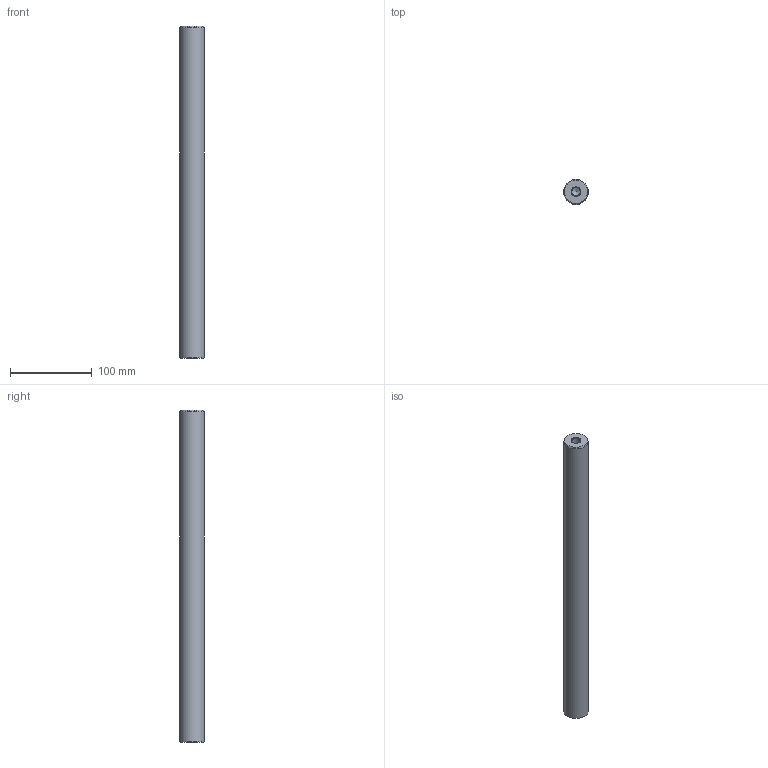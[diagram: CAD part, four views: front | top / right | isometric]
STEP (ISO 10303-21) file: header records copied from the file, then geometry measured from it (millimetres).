
FILE_DESCRIPTION( ( 'STEP AP214' ), '1' );
FILE_NAME( 'U:/Etudes/Top Solid/BIBLIO 3D AVM/STEP/G_GUIDAGE/Accessoires/Colonnes/Ø30x405.step', '2007-06-18T12:24:39', ( ' ' ), ( ' ' ), 'XStep 1.0', ' ', ' ' );
FILE_SCHEMA( ( 'automotive_design' ) );
Length unit declared in the file: metre
Products named in the file (1): 1
Bounding box: 30 x 30 x 405 mm (x, y, z)
Volume: 280945.5 mm3; surface area: 41493.8 mm2
Topology: 1 solids, 1 shells, 13 faces, 27 edges, 16 vertices
Faces by surface type: cone 6, cylinder 5, plane 2
Full cylindrical faces by diameter (mm): 10.106 x4, 30 x1
Entity records: 382 total; most frequent: DIRECTION 52, CARTESIAN_POINT 40, AXIS2_PLACEMENT_3D 26, EDGE_LOOP 24, ORIENTED_EDGE 24, FACE_OUTER_BOUND 18, VERTEX_POINT 14, STYLED_ITEM 13
